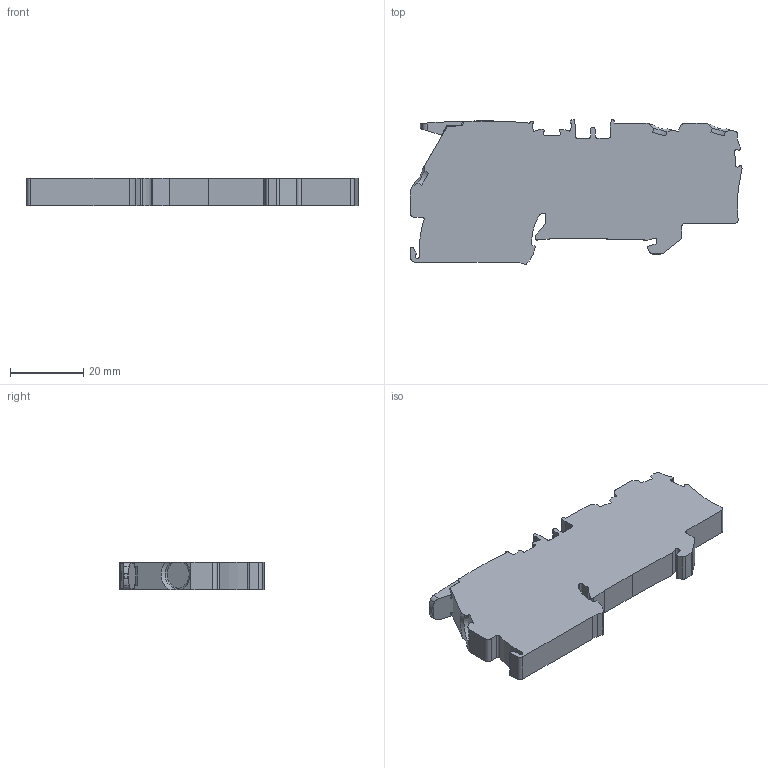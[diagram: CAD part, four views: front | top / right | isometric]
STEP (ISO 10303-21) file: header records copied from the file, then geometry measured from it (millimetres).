
FILE_DESCRIPTION( ( 'STEP AP214' ), ' ' );
FILE_NAME( 'U:/__temp/PartServer_Export/2106-1301.stp', '2018-04-25T12:36:31', ( '' ), ( '' ), ' ', 'PARTsolutions', ' ' );
FILE_SCHEMA( ( 'AUTOMOTIVE_DESIGN { 1 0 10303 214 1 1 1 1 }' ) );
Length unit declared in the file: millimetre
Products named in the file (1): _2106-1301
Bounding box: 90.8 x 39.5 x 7.5 mm (x, y, z)
Volume: 20262.3 mm3; surface area: 9063.3 mm2
Topology: 1 solids, 1 shells, 234 faces, 679 edges, 450 vertices
Faces by surface type: plane 138, cylinder 93, cone 3
Full cylindrical faces by diameter (mm): 2.2 x1
Entity records: 9729 total; most frequent: CARTESIAN_POINT 1515, ORIENTED_EDGE 1356, DIRECTION 1321, EDGE_CURVE 678, LINE 469, VECTOR 469, VERTEX_POINT 450, AXIS2_PLACEMENT_3D 426
